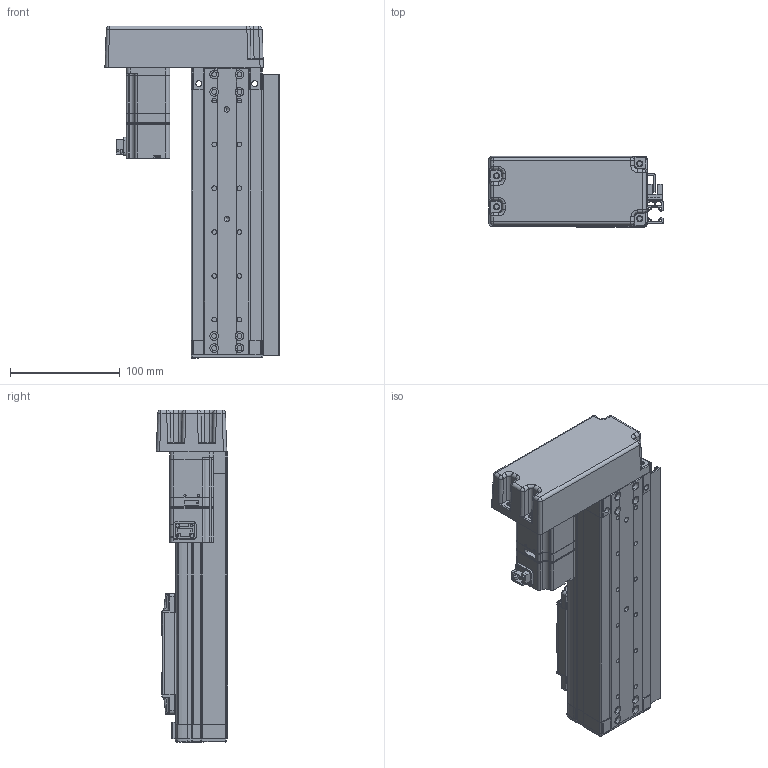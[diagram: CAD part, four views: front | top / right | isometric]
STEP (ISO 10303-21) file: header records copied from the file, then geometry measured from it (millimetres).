
FILE_DESCRIPTION (( 'STEP AP203' ), '1' );
FILE_NAME ('PES065LON-1205-ST100-10NN00-N-I3R.STEP', '2015-10-06T08:44:22', ( '' ), ( '' ), 'SwSTEP 2.0', 'SolidWorks 2012', '' );
FILE_SCHEMA (( 'CONFIG_CONTROL_DESIGN' ));
Products named in the file (14): PES065S-Carrier; PES065-Sensor Dog; PES065-Sus Band Holder; PES065-Carrier END COVER; EE_SX674; PES065-PULLEY COVER; SGMJV 100W; PES065S-Free Bearing; PES065P-Fix Bearing; PES065P-Front Plate; PES065P-100ST Base; PES065LON-1205-ST100-10NN00-N-I3R; PES065-END COVER; PES065-Carrier UPPER COVER
Assembly tree (17 placements, depth 2):
  PES065LON-1205-ST100-10NN00-N-I3R
    PES065P-Fix Bearing
    PES065P-100ST Base
    PES065S-Free Bearing
    PES065P-Front Plate
    PES065-PULLEY COVER
    SGMJV 100W
    EE_SX674  x3
    PES065-Sensor Dog
    PES065-Sus Band Holder  x2
    PES065S-Carrier
    PES065-Carrier END COVER  x2
    PES065-Carrier UPPER COVER
    PES065-END COVER
Bounding box: 159.06 x 65.16 x 303.18 mm (x, y, z)
Volume: 647850.5 mm3; surface area: 324689.5 mm2
Topology: 19 solids, 19 shells, 1887 faces, 5045 edges, 3228 vertices
Faces by surface type: plane 923, cylinder 700, bspline 147, cone 96, sphere 20, torus 1
Entity records: 60789 total; most frequent: CARTESIAN_POINT 17999, ORIENTED_EDGE 8902, DIRECTION 8294, EDGE_CURVE 4451, VERTEX_POINT 2869, AXIS2_PLACEMENT_3D 2820, LINE 2654, VECTOR 2654
